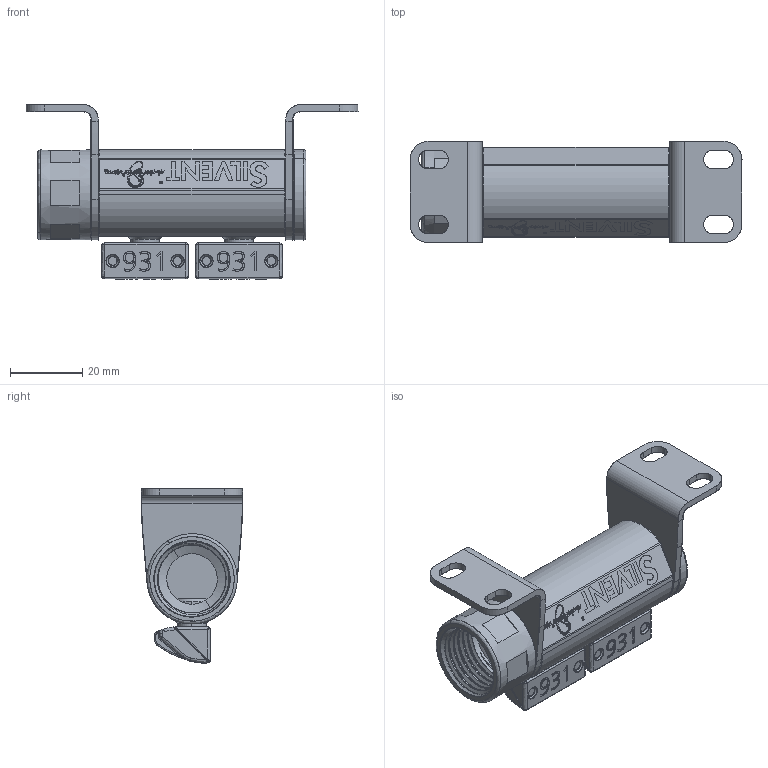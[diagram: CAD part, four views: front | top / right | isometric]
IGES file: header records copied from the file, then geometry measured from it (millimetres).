
Start section: SolidWorks IGES file using analytic representation for surfaces
Global section: file name: \\silv-file01\public$\SILVENT AB\ENGINEERING\Drawings\ÖVRIGT\IGES\Silvent 332.IGS; native system: SolidWorks 2016; preprocessor: SolidWorks 2016; author: a.olander; date: 190909.101354; units: millimetre
Bounding box: 92 x 28 x 48.39 mm (x, y, z)
Surface area: 24666.1 mm2 (no closed solid volume)
Topology: 0 solids, 0 shells, 1205 faces, 14319 edges, 14291 vertices
Faces by surface type: bspline 850, revolution 355
